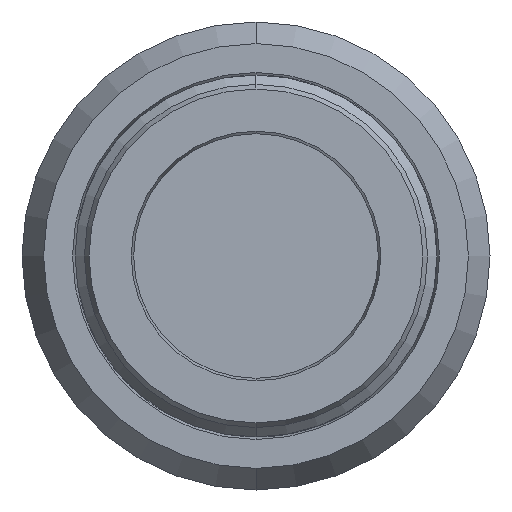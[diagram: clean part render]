
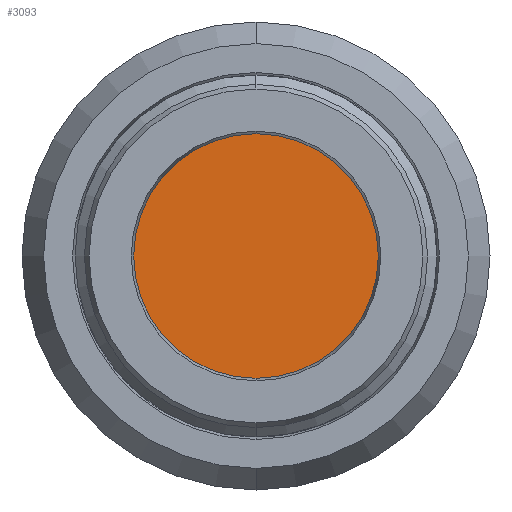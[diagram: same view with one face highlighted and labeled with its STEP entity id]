
A CAD part, front view. The second image highlights one B-rep face of the part: STEP entity #3093.
In plain terms, the highlighted planar face has unit normal (0, -1, 0).
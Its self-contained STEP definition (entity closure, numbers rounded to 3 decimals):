
#9 = CARTESIAN_POINT ( 'NONE',  ( 0., -99.291, -19.6 ) ) ;
#145 = EDGE_CURVE ( 'NONE', #2528, #1573, #235, .T. ) ;
#235 = CIRCLE ( 'NONE', #1506, 19.6 ) ;
#304 = AXIS2_PLACEMENT_3D ( 'NONE', #2328, #2325, #2320 ) ;
#536 = CIRCLE ( 'NONE', #304, 19.6 ) ;
#712 = DIRECTION ( 'NONE',  ( 0., 0., -1. ) ) ;
#731 = DIRECTION ( 'NONE',  ( 0., 1., 0. ) ) ;
#741 = DIRECTION ( 'NONE',  ( 0., -1., 0. ) ) ;
#783 = CARTESIAN_POINT ( 'NONE',  ( 0., -99.291, 0. ) ) ;
#1506 = AXIS2_PLACEMENT_3D ( 'NONE', #1693, #741, #2781 ) ;
#1573 = VERTEX_POINT ( 'NONE', #9 ) ;
#1693 = CARTESIAN_POINT ( 'NONE',  ( 0., -99.291, 0. ) ) ;
#1903 = AXIS2_PLACEMENT_3D ( 'NONE', #783, #731, #712 ) ;
#2208 = FACE_OUTER_BOUND ( 'NONE', #3369, .T. ) ;
#2247 = ORIENTED_EDGE ( 'NONE', *, *, #145, .T. ) ;
#2320 = DIRECTION ( 'NONE',  ( 0., 0., -1. ) ) ;
#2325 = DIRECTION ( 'NONE',  ( 0., -1., 0. ) ) ;
#2328 = CARTESIAN_POINT ( 'NONE',  ( 0., -99.291, 0. ) ) ;
#2528 = VERTEX_POINT ( 'NONE', #3245 ) ;
#2781 = DIRECTION ( 'NONE',  ( 0., 0., -1. ) ) ;
#3039 = PLANE ( 'NONE',  #1903 ) ;
#3072 = ORIENTED_EDGE ( 'NONE', *, *, #3510, .T. ) ;
#3093 = ADVANCED_FACE ( 'NONE', ( #2208 ), #3039, .F. ) ;
#3245 = CARTESIAN_POINT ( 'NONE',  ( 0., -99.291, 19.6 ) ) ;
#3369 = EDGE_LOOP ( 'NONE', ( #3072, #2247 ) ) ;
#3510 = EDGE_CURVE ( 'NONE', #1573, #2528, #536, .T. ) ;
